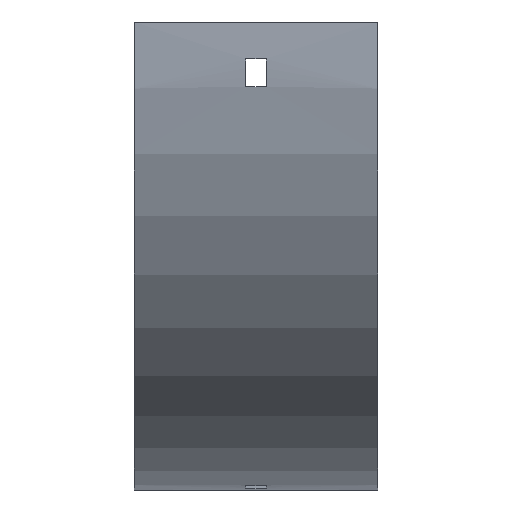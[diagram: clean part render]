
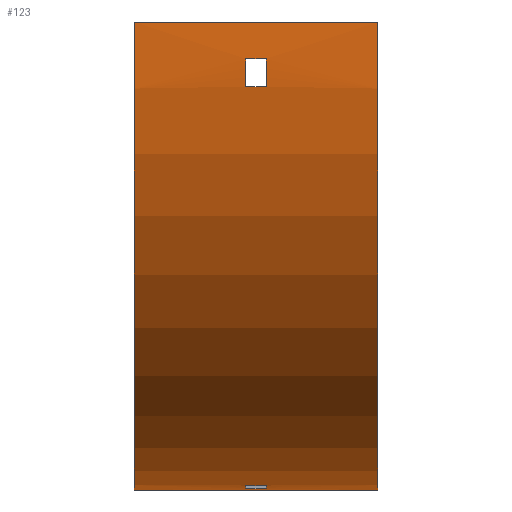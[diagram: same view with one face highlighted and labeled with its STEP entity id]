
A CAD part, front view. The second image highlights one B-rep face of the part: STEP entity #123.
In plain terms, the highlighted cylindrical face has radius 152 mm (diameter 304 mm), a partial arc.
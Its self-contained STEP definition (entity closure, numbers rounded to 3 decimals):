
#3 = EDGE_CURVE ( 'NONE', #849, #242, #729, .T. ) ;
#5 = EDGE_CURVE ( 'NONE', #343, #753, #354, .T. ) ;
#23 = ORIENTED_EDGE ( 'NONE', *, *, #3, .T. ) ;
#38 = FACE_BOUND ( 'NONE', #814, .T. ) ;
#41 = ORIENTED_EDGE ( 'NONE', *, *, #881, .F. ) ;
#43 = VECTOR ( 'NONE', #973, 1000. ) ;
#70 = ORIENTED_EDGE ( 'NONE', *, *, #860, .F. ) ;
#71 = EDGE_CURVE ( 'NONE', #614, #112, #540, .T. ) ;
#79 = DIRECTION ( 'NONE',  ( 0., 0., -1. ) ) ;
#82 = CARTESIAN_POINT ( 'NONE',  ( 39.5, 100., 0. ) ) ;
#106 = VECTOR ( 'NONE', #207, 1000. ) ;
#112 = VERTEX_POINT ( 'NONE', #1104 ) ;
#120 = VECTOR ( 'NONE', #325, 1000. ) ;
#123 = ADVANCED_FACE ( 'NONE', ( #465, #205, #38 ), #1002, .T. ) ;
#134 = LINE ( 'NONE', #1116, #812 ) ;
#136 = VERTEX_POINT ( 'NONE', #1088 ) ;
#156 = CARTESIAN_POINT ( 'NONE',  ( -39.5, 100., -152. ) ) ;
#164 = AXIS2_PLACEMENT_3D ( 'NONE', #535, #611, #899 ) ;
#205 = FACE_BOUND ( 'NONE', #1136, .T. ) ;
#207 = DIRECTION ( 'NONE',  ( -1., 0., 0. ) ) ;
#214 = VECTOR ( 'NONE', #470, 1000. ) ;
#234 = LINE ( 'NONE', #787, #120 ) ;
#242 = VERTEX_POINT ( 'NONE', #156 ) ;
#244 = VERTEX_POINT ( 'NONE', #765 ) ;
#278 = DIRECTION ( 'NONE',  ( 1., 0., 0. ) ) ;
#279 = VERTEX_POINT ( 'NONE', #317 ) ;
#280 = DIRECTION ( 'NONE',  ( 1., 0., 0. ) ) ;
#281 = DIRECTION ( 'NONE',  ( 1., 0., 0. ) ) ;
#289 = CIRCLE ( 'NONE', #939, 152. ) ;
#291 = DIRECTION ( 'NONE',  ( 0., 0., 1. ) ) ;
#297 = ORIENTED_EDGE ( 'NONE', *, *, #449, .T. ) ;
#298 = CARTESIAN_POINT ( 'NONE',  ( -3.25, 100., 0. ) ) ;
#317 = CARTESIAN_POINT ( 'NONE',  ( 39.5, -52., 0. ) ) ;
#324 = AXIS2_PLACEMENT_3D ( 'NONE', #298, #650, #1008 ) ;
#325 = DIRECTION ( 'NONE',  ( -1., 0., 0. ) ) ;
#328 = EDGE_CURVE ( 'NONE', #244, #1122, #234, .T. ) ;
#337 = ORIENTED_EDGE ( 'NONE', *, *, #328, .F. ) ;
#343 = VERTEX_POINT ( 'NONE', #1022 ) ;
#344 = VECTOR ( 'NONE', #278, 1000. ) ;
#350 = CARTESIAN_POINT ( 'NONE',  ( 39.5, -50.542, -21. ) ) ;
#354 = LINE ( 'NONE', #350, #43 ) ;
#359 = EDGE_CURVE ( 'NONE', #279, #1018, #654, .T. ) ;
#378 = LINE ( 'NONE', #581, #106 ) ;
#395 = AXIS2_PLACEMENT_3D ( 'NONE', #687, #597, #1021 ) ;
#400 = CARTESIAN_POINT ( 'NONE',  ( -39.5, -52., 0. ) ) ;
#401 = DIRECTION ( 'NONE',  ( -1., 0., 0. ) ) ;
#427 = CARTESIAN_POINT ( 'NONE',  ( 39.5, 100., -152. ) ) ;
#449 = EDGE_CURVE ( 'NONE', #753, #614, #902, .T. ) ;
#463 = CARTESIAN_POINT ( 'NONE',  ( 3.25, 88., -151.526 ) ) ;
#465 = FACE_OUTER_BOUND ( 'NONE', #988, .T. ) ;
#470 = DIRECTION ( 'NONE',  ( 1., 0., 0. ) ) ;
#519 = CARTESIAN_POINT ( 'NONE',  ( -3.25, -50.542, -21. ) ) ;
#535 = CARTESIAN_POINT ( 'NONE',  ( -3.25, 100., 0. ) ) ;
#540 = LINE ( 'NONE', #983, #344 ) ;
#547 = VERTEX_POINT ( 'NONE', #463 ) ;
#581 = CARTESIAN_POINT ( 'NONE',  ( 39.5, 100., -152. ) ) ;
#597 = DIRECTION ( 'NONE',  ( -1., 0., 0. ) ) ;
#611 = DIRECTION ( 'NONE',  ( -1., 0., 0. ) ) ;
#614 = VERTEX_POINT ( 'NONE', #865 ) ;
#620 = AXIS2_PLACEMENT_3D ( 'NONE', #897, #281, #704 ) ;
#650 = DIRECTION ( 'NONE',  ( 1., 0., 0. ) ) ;
#654 = CIRCLE ( 'NONE', #775, 152. ) ;
#660 = EDGE_CURVE ( 'NONE', #547, #244, #965, .T. ) ;
#687 = CARTESIAN_POINT ( 'NONE',  ( 3.25, 100., 0. ) ) ;
#704 = DIRECTION ( 'NONE',  ( 0., 0., -1. ) ) ;
#705 = EDGE_CURVE ( 'NONE', #279, #849, #134, .T. ) ;
#721 = ORIENTED_EDGE ( 'NONE', *, *, #359, .F. ) ;
#729 = CIRCLE ( 'NONE', #620, 152. ) ;
#734 = ORIENTED_EDGE ( 'NONE', *, *, #705, .T. ) ;
#738 = ORIENTED_EDGE ( 'NONE', *, *, #71, .T. ) ;
#747 = LINE ( 'NONE', #1026, #214 ) ;
#753 = VERTEX_POINT ( 'NONE', #519 ) ;
#765 = CARTESIAN_POINT ( 'NONE',  ( 3.25, 79., -150.542 ) ) ;
#775 = AXIS2_PLACEMENT_3D ( 'NONE', #82, #280, #896 ) ;
#787 = CARTESIAN_POINT ( 'NONE',  ( 39.5, 79., -150.542 ) ) ;
#812 = VECTOR ( 'NONE', #401, 1000. ) ;
#814 = EDGE_LOOP ( 'NONE', ( #41, #337, #942, #70 ) ) ;
#849 = VERTEX_POINT ( 'NONE', #400 ) ;
#860 = EDGE_CURVE ( 'NONE', #136, #547, #747, .T. ) ;
#861 = CARTESIAN_POINT ( 'NONE',  ( -3.25, 79., -150.542 ) ) ;
#863 = DIRECTION ( 'NONE',  ( 1., 0., 0. ) ) ;
#865 = CARTESIAN_POINT ( 'NONE',  ( -3.25, -51.526, -12. ) ) ;
#869 = EDGE_CURVE ( 'NONE', #1018, #242, #378, .T. ) ;
#881 = EDGE_CURVE ( 'NONE', #1122, #136, #904, .T. ) ;
#896 = DIRECTION ( 'NONE',  ( 0., 0., -1. ) ) ;
#897 = CARTESIAN_POINT ( 'NONE',  ( -39.5, 100., 0. ) ) ;
#899 = DIRECTION ( 'NONE',  ( 0., 0., 1. ) ) ;
#902 = CIRCLE ( 'NONE', #164, 152. ) ;
#904 = CIRCLE ( 'NONE', #324, 152. ) ;
#910 = DIRECTION ( 'NONE',  ( -1., 0., 0. ) ) ;
#912 = EDGE_CURVE ( 'NONE', #112, #343, #289, .T. ) ;
#918 = AXIS2_PLACEMENT_3D ( 'NONE', #1017, #910, #291 ) ;
#925 = ORIENTED_EDGE ( 'NONE', *, *, #5, .T. ) ;
#939 = AXIS2_PLACEMENT_3D ( 'NONE', #1039, #863, #79 ) ;
#942 = ORIENTED_EDGE ( 'NONE', *, *, #660, .F. ) ;
#965 = CIRCLE ( 'NONE', #395, 152. ) ;
#973 = DIRECTION ( 'NONE',  ( -1., 0., 0. ) ) ;
#983 = CARTESIAN_POINT ( 'NONE',  ( 39.5, -51.526, -12. ) ) ;
#988 = EDGE_LOOP ( 'NONE', ( #23, #1140, #721, #734 ) ) ;
#1002 = CYLINDRICAL_SURFACE ( 'NONE', #918, 152. ) ;
#1008 = DIRECTION ( 'NONE',  ( 0., 1., 0. ) ) ;
#1017 = CARTESIAN_POINT ( 'NONE',  ( 39.5, 100., 0. ) ) ;
#1018 = VERTEX_POINT ( 'NONE', #427 ) ;
#1021 = DIRECTION ( 'NONE',  ( 0., 0., 1. ) ) ;
#1022 = CARTESIAN_POINT ( 'NONE',  ( 3.25, -50.542, -21. ) ) ;
#1026 = CARTESIAN_POINT ( 'NONE',  ( 39.5, 88., -151.526 ) ) ;
#1039 = CARTESIAN_POINT ( 'NONE',  ( 3.25, 100., 0. ) ) ;
#1048 = ORIENTED_EDGE ( 'NONE', *, *, #912, .T. ) ;
#1088 = CARTESIAN_POINT ( 'NONE',  ( -3.25, 88., -151.526 ) ) ;
#1104 = CARTESIAN_POINT ( 'NONE',  ( 3.25, -51.526, -12. ) ) ;
#1116 = CARTESIAN_POINT ( 'NONE',  ( 39.5, -52., 0. ) ) ;
#1122 = VERTEX_POINT ( 'NONE', #861 ) ;
#1136 = EDGE_LOOP ( 'NONE', ( #925, #297, #738, #1048 ) ) ;
#1140 = ORIENTED_EDGE ( 'NONE', *, *, #869, .F. ) ;
